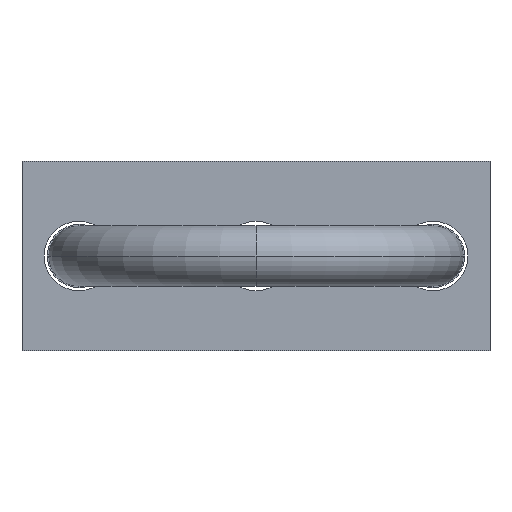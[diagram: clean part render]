
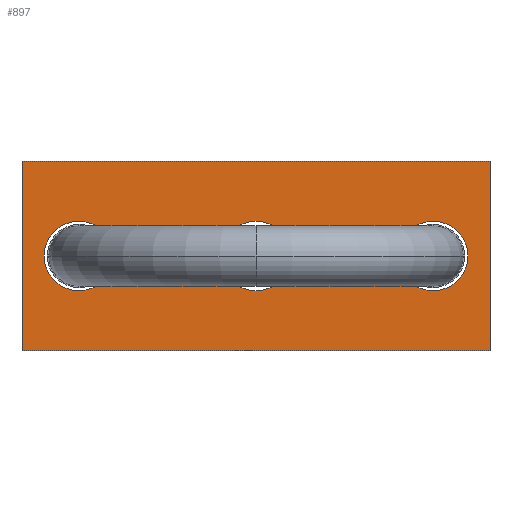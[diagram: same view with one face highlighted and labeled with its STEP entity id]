
A CAD part, front view. The second image highlights one B-rep face of the part: STEP entity #897.
In plain terms, the highlighted planar face has unit normal (0, -1, 0).
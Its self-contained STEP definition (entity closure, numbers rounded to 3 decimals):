
#602=CARTESIAN_POINT('',(0.,31.358,0.));
#603=DIRECTION('',(0.,1.,0.));
#604=DIRECTION('',(0.,0.,1.));
#605=AXIS2_PLACEMENT_3D('',#602,#603,#604);
#610=CARTESIAN_POINT('',(0.,31.358,0.));
#611=DIRECTION('',(0.,1.,0.));
#612=DIRECTION('',(0.,0.,-1.));
#613=AXIS2_PLACEMENT_3D('',#610,#611,#612);
#618=DIRECTION('',(-1.,0.,0.));
#619=VECTOR('',#618,74.);
#620=CARTESIAN_POINT('',(37.,31.358,15.));
#621=LINE('',#620,#619);
#625=DIRECTION('',(0.,0.,1.));
#626=VECTOR('',#625,30.);
#627=CARTESIAN_POINT('',(37.,31.358,-15.));
#628=LINE('',#627,#626);
#632=CARTESIAN_POINT('',(28.,31.358,0.));
#633=DIRECTION('',(0.,1.,0.));
#634=DIRECTION('',(0.,0.,1.));
#635=AXIS2_PLACEMENT_3D('',#632,#633,#634);
#640=CARTESIAN_POINT('',(28.,31.358,0.));
#641=DIRECTION('',(0.,1.,0.));
#642=DIRECTION('',(0.,0.,-1.));
#643=AXIS2_PLACEMENT_3D('',#640,#641,#642);
#648=CARTESIAN_POINT('',(-28.,31.358,0.));
#649=DIRECTION('',(0.,1.,0.));
#650=DIRECTION('',(0.,0.,1.));
#651=AXIS2_PLACEMENT_3D('',#648,#649,#650);
#656=CARTESIAN_POINT('',(-28.,31.358,0.));
#657=DIRECTION('',(0.,1.,0.));
#658=DIRECTION('',(0.,0.,-1.));
#659=AXIS2_PLACEMENT_3D('',#656,#657,#658);
#740=DIRECTION('',(-1.,0.,0.));
#741=VECTOR('',#740,74.);
#742=CARTESIAN_POINT('',(37.,31.358,-15.));
#743=LINE('',#742,#741);
#789=DIRECTION('',(0.,0.,1.));
#790=VECTOR('',#789,30.);
#791=CARTESIAN_POINT('',(-37.,31.358,-15.));
#792=LINE('',#791,#790);
#824=CARTESIAN_POINT('',(37.,31.358,-15.));
#825=CARTESIAN_POINT('',(-37.,31.358,-15.));
#826=VERTEX_POINT('',#824);
#827=VERTEX_POINT('',#825);
#828=CARTESIAN_POINT('',(37.,31.358,15.));
#829=VERTEX_POINT('',#828);
#830=CARTESIAN_POINT('',(-37.,31.358,15.));
#831=VERTEX_POINT('',#830);
#841=CARTESIAN_POINT('',(28.,31.358,5.5));
#843=VERTEX_POINT('',#841);
#845=CARTESIAN_POINT('',(28.,31.358,-5.5));
#847=VERTEX_POINT('',#845);
#849=CARTESIAN_POINT('',(0.,31.358,5.5));
#851=VERTEX_POINT('',#849);
#853=CARTESIAN_POINT('',(0.,31.358,-5.5));
#855=VERTEX_POINT('',#853);
#857=CARTESIAN_POINT('',(-28.,31.358,5.5));
#859=VERTEX_POINT('',#857);
#861=CARTESIAN_POINT('',(-28.,31.358,-5.5));
#863=VERTEX_POINT('',#861);
#864=CARTESIAN_POINT('',(-37.,31.358,15.));
#865=DIRECTION('',(0.,1.,0.));
#866=DIRECTION('',(0.,0.,1.));
#867=AXIS2_PLACEMENT_3D('',#864,#865,#866);
#868=PLANE('',#867);
#870=ORIENTED_EDGE('',*,*,#869,.T.);
#872=ORIENTED_EDGE('',*,*,#871,.T.);
#874=ORIENTED_EDGE('',*,*,#873,.F.);
#876=ORIENTED_EDGE('',*,*,#875,.F.);
#877=EDGE_LOOP('',(#870,#872,#874,#876));
#878=FACE_OUTER_BOUND('',#877,.F.);
#880=ORIENTED_EDGE('',*,*,#879,.F.);
#882=ORIENTED_EDGE('',*,*,#881,.F.);
#883=EDGE_LOOP('',(#880,#882));
#884=FACE_BOUND('',#883,.F.);
#886=ORIENTED_EDGE('',*,*,#885,.F.);
#888=ORIENTED_EDGE('',*,*,#887,.F.);
#889=EDGE_LOOP('',(#886,#888));
#890=FACE_BOUND('',#889,.F.);
#892=ORIENTED_EDGE('',*,*,#891,.F.);
#894=ORIENTED_EDGE('',*,*,#893,.F.);
#895=EDGE_LOOP('',(#892,#894));
#896=FACE_BOUND('',#895,.F.);
#606=CIRCLE('',#605,5.5);
#614=CIRCLE('',#613,5.5);
#636=CIRCLE('',#635,5.5);
#644=CIRCLE('',#643,5.5);
#652=CIRCLE('',#651,5.5);
#660=CIRCLE('',#659,5.5);
#869=EDGE_CURVE('',#826,#827,#743,.T.);
#871=EDGE_CURVE('',#827,#831,#792,.T.);
#873=EDGE_CURVE('',#829,#831,#621,.T.);
#875=EDGE_CURVE('',#826,#829,#628,.T.);
#879=EDGE_CURVE('',#851,#855,#606,.T.);
#881=EDGE_CURVE('',#855,#851,#614,.T.);
#885=EDGE_CURVE('',#843,#847,#636,.T.);
#887=EDGE_CURVE('',#847,#843,#644,.T.);
#891=EDGE_CURVE('',#859,#863,#652,.T.);
#893=EDGE_CURVE('',#863,#859,#660,.T.);
#897=ADVANCED_FACE('',(#878,#884,#890,#896),#868,.F.);
